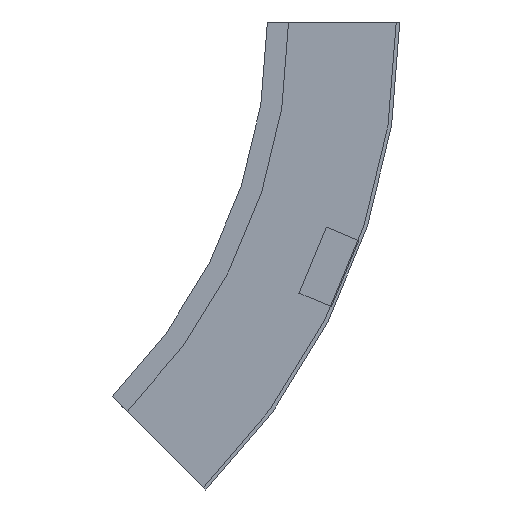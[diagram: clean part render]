
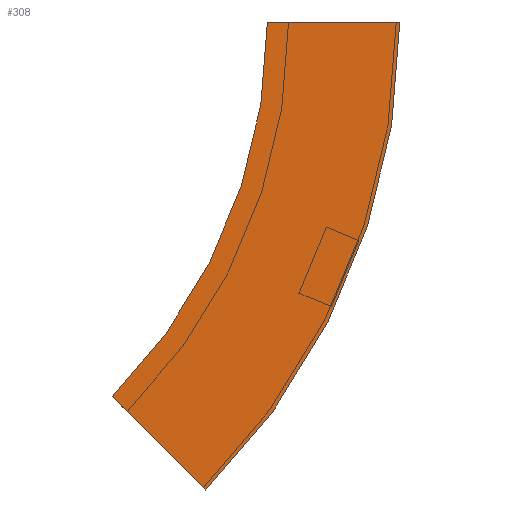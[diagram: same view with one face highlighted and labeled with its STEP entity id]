
A CAD part, left-side view. The second image highlights one B-rep face of the part: STEP entity #308.
In plain terms, the highlighted planar face has unit normal (-1, 0, 0) as drawn and (1, 0, 0) by its records, which use the part's own axes.
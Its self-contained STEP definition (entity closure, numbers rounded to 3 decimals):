
#2 = VERTEX_POINT ( 'NONE', #294 ) ;
#38 = CARTESIAN_POINT ( 'NONE',  ( 0., 34.835, -265.165 ) ) ;
#39 = DIRECTION ( 'NONE',  ( 0., -1., 0. ) ) ;
#71 = CARTESIAN_POINT ( 'NONE',  ( 0., 34.835, -265.165 ) ) ;
#88 = DIRECTION ( 'NONE',  ( 1., 0., 0. ) ) ;
#98 = VERTEX_POINT ( 'NONE', #348 ) ;
#130 = EDGE_CURVE ( 'NONE', #188, #98, #433, .T. ) ;
#133 = VECTOR ( 'NONE', #376, 1000. ) ;
#134 = EDGE_CURVE ( 'NONE', #98, #2, #340, .T. ) ;
#156 = EDGE_LOOP ( 'NONE', ( #465, #419, #313, #234 ) ) ;
#160 = AXIS2_PLACEMENT_3D ( 'NONE', #524, #88, #39 ) ;
#188 = VERTEX_POINT ( 'NONE', #272 ) ;
#196 = DIRECTION ( 'NONE',  ( 0., -1., 0. ) ) ;
#206 = AXIS2_PLACEMENT_3D ( 'NONE', #436, #252, #432 ) ;
#234 = ORIENTED_EDGE ( 'NONE', *, *, #442, .T. ) ;
#243 = DIRECTION ( 'NONE',  ( 1., 0., 0. ) ) ;
#248 = EDGE_CURVE ( 'NONE', #188, #378, #424, .T. ) ;
#252 = DIRECTION ( 'NONE',  ( -1., 0., 0. ) ) ;
#272 = CARTESIAN_POINT ( 'NONE',  ( 0., -75., 0. ) ) ;
#284 = PLANE ( 'NONE',  #206 ) ;
#290 = AXIS2_PLACEMENT_3D ( 'NONE', #414, #243, #196 ) ;
#293 = FACE_OUTER_BOUND ( 'NONE', #156, .T. ) ;
#294 = CARTESIAN_POINT ( 'NONE',  ( 0., 87.868, -212.132 ) ) ;
#308 = ADVANCED_FACE ( 'NONE', ( #293 ), #284, .F. ) ;
#313 = ORIENTED_EDGE ( 'NONE', *, *, #248, .T. ) ;
#336 = DIRECTION ( 'NONE',  ( 0., 1., 0. ) ) ;
#340 = CIRCLE ( 'NONE', #160, 300. ) ;
#342 = CARTESIAN_POINT ( 'NONE',  ( 0., -75., 0. ) ) ;
#348 = CARTESIAN_POINT ( 'NONE',  ( 0., 0., 0. ) ) ;
#376 = DIRECTION ( 'NONE',  ( 0., 0.707, 0.707 ) ) ;
#378 = VERTEX_POINT ( 'NONE', #38 ) ;
#414 = CARTESIAN_POINT ( 'NONE',  ( 0., 300., 0. ) ) ;
#419 = ORIENTED_EDGE ( 'NONE', *, *, #130, .F. ) ;
#424 = CIRCLE ( 'NONE', #290, 375. ) ;
#432 = DIRECTION ( 'NONE',  ( 0., 0., 1. ) ) ;
#433 = LINE ( 'NONE', #342, #504 ) ;
#436 = CARTESIAN_POINT ( 'NONE',  ( 0., -75., 0. ) ) ;
#442 = EDGE_CURVE ( 'NONE', #378, #2, #467, .T. ) ;
#465 = ORIENTED_EDGE ( 'NONE', *, *, #134, .F. ) ;
#467 = LINE ( 'NONE', #71, #133 ) ;
#504 = VECTOR ( 'NONE', #336, 1000. ) ;
#524 = CARTESIAN_POINT ( 'NONE',  ( 0., 300., 0. ) ) ;
